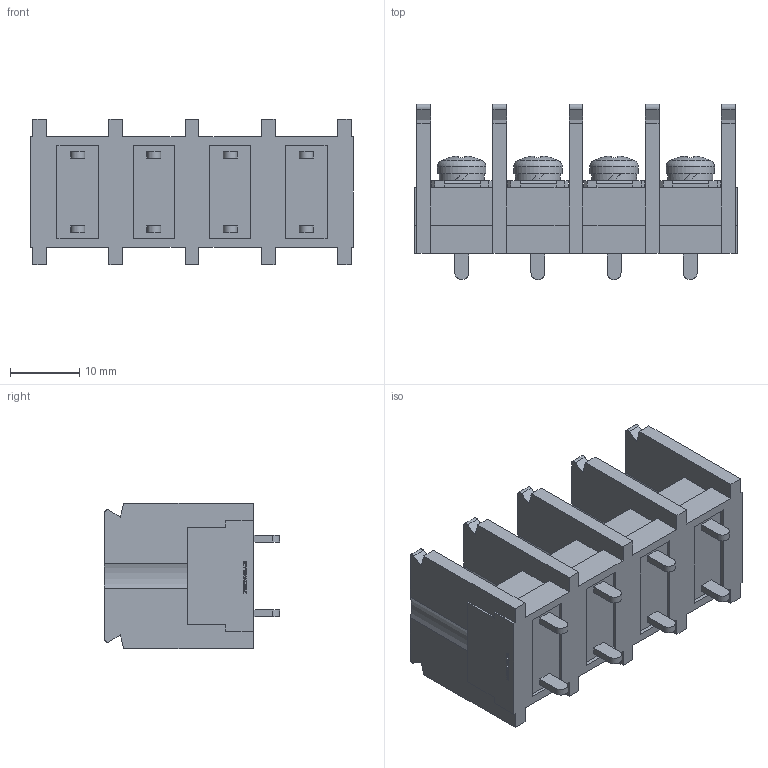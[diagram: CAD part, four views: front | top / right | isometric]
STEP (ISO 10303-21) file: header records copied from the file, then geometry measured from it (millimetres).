
FILE_DESCRIPTION(/* description */ ('Alibre Inc.'),/* implementation_level */ '2;1');
FILE_NAME(/* name */ 'export0',/* time_stamp */ '2015-12-02T12:31:28+09:00',/* author */ (''),/* organization */ (''),/* preprocessor_version */ 'ST-DEVELOPER v14',/* originating_system */ 'Alibre',/* authorisation */ '');
FILE_SCHEMA (('CONFIG_CONTROL_DESIGN'));
Length unit declared in the file: centimetre
Products named in the file (1): ID_1
Bounding box: 46.6 x 25.3 x 21 mm (x, y, z)
Volume: 8675.1 mm3; surface area: 9313.1 mm2
Topology: 1 solids, 17 shells, 814 faces, 2188 edges, 1456 vertices
Faces by surface type: plane 630, bspline 104, cylinder 52, cone 20, sphere 4, torus 4
Full cylindrical faces by diameter (mm): 4 x4, 6.5 x4, 7 x4
Entity records: 24395 total; most frequent: CARTESIAN_POINT 5416, ORIENTED_EDGE 4344, DIRECTION 2849, EDGE_CURVE 2172, VECTOR 1679, LINE 1679, VERTEX_POINT 1456, EDGE_LOOP 894
